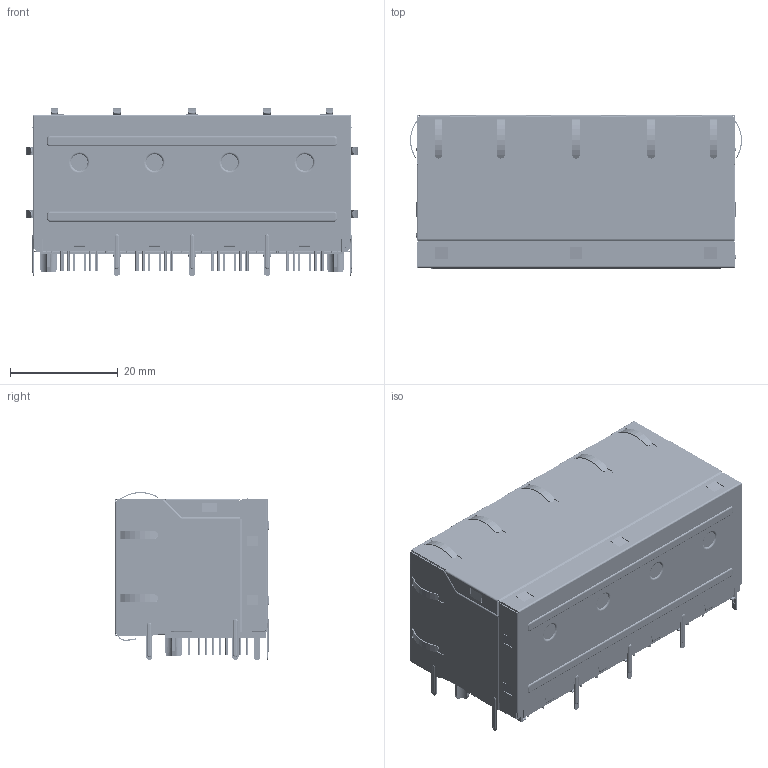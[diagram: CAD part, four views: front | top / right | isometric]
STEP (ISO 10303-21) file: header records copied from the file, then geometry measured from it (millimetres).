
FILE_DESCRIPTION((''),'2;1');
FILE_NAME('JDF240570817_ASM','2022-11-28T08:54:55',('Administrator'),(''),'CREO PARAMETRIC BY PTC INC, 2019010','CREO PARAMETRIC BY PTC INC, 2019010','');
FILE_SCHEMA(('CONFIG_CONTROL_DESIGN'));
Products named in the file (1): JDF240570817_ASM
Bounding box: 61.7 x 28.6 x 31.21 mm (x, y, z)
Volume: 21301.5 mm3; surface area: 43305.5 mm2
Topology: 1 solids, 2 shells, 8667 faces, 26001 edges, 16958 vertices
Faces by surface type: plane 6530, cylinder 1978, bspline 72, torus 70, cone 8, extrusion 5, sphere 4
Entity records: 295671 total; most frequent: CARTESIAN_POINT 55917, ORIENTED_EDGE 51994, DIRECTION 47802, EDGE_CURVE 25997, VECTOR 21004, LINE 20999, VERTEX_POINT 16958, AXIS2_PLACEMENT_3D 13399
